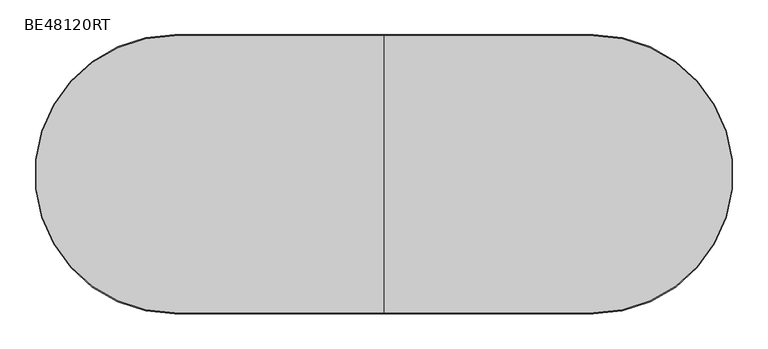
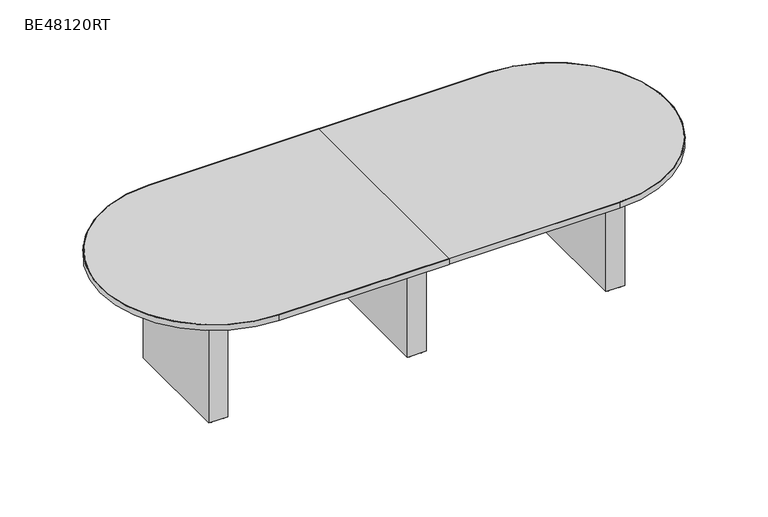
"""IFC4 building model written with IfcOpenShell, lengths in millimetres: furniture geometry, ERG-Beta-Conference_Table-Racetrack : BE48120RT."""

from ifc_helpers import new_model, si_unit, point, frame, frame_2d, origin, origin_with_axes, place, context, project, spatial, polyline, circle_curve, trimmed, segment, composite_curve, outline, extrude, source, transform, mapped, element, save


def be48120rt_d17ae28c(model_context):
    return source(origin(), model_context, "Body", "SweptSolid", [
        extrude(outline(composite_curve([segment(trimmed(circle_curve(frame_2d((511.175, 339.476527)), 9.525), [point((501.65, 339.476527))], [point((520.7, 339.476527))], False, "CARTESIAN"), True, "CONTINUOUS"), segment(trimmed(circle_curve(frame_2d((511.175, 339.476527)), 9.525), [point((520.7, 339.476527))], [point((501.65, 339.476527))], False, "CARTESIAN"), True, "CONTINUOUS")], self_intersect=False)), origin_with_axes(), (0.0, 0.0, 1.0), 9.525),
        extrude(outline(composite_curve([segment(trimmed(circle_curve(frame_2d((574.675, 339.476527)), 9.525), [point((565.15, 339.476527))], [point((584.2, 339.476527))], False, "CARTESIAN"), True, "CONTINUOUS"), segment(trimmed(circle_curve(frame_2d((574.675, 339.476527)), 9.525), [point((584.2, 339.476527))], [point((565.15, 339.476527))], False, "CARTESIAN"), True, "CONTINUOUS")], self_intersect=False)), origin_with_axes(), (0.0, 0.0, 1.0), 9.525),
        extrude(outline(composite_curve([segment(trimmed(circle_curve(frame_2d((511.175, -232.023473)), 9.525), [point((501.65, -232.023473))], [point((520.7, -232.023473))], False, "CARTESIAN"), True, "CONTINUOUS"), segment(trimmed(circle_curve(frame_2d((511.175, -232.023473)), 9.525), [point((520.7, -232.023473))], [point((501.65, -232.023473))], False, "CARTESIAN"), True, "CONTINUOUS")], self_intersect=False)), origin_with_axes(), (0.0, 0.0, 1.0), 9.525),
        extrude(outline(composite_curve([segment(trimmed(circle_curve(frame_2d((574.675, -232.023473)), 9.525), [point((565.15, -232.023473))], [point((584.2, -232.023473))], False, "CARTESIAN"), True, "CONTINUOUS"), segment(trimmed(circle_curve(frame_2d((574.675, -232.023473)), 9.525), [point((584.2, -232.023473))], [point((565.15, -232.023473))], False, "CARTESIAN"), True, "CONTINUOUS")], self_intersect=False)), origin_with_axes(), (0.0, 0.0, 1.0), 9.525),
        extrude(outline(polyline([(593.725, 358.526527), (593.725, -251.073473), (492.125, -251.073473), (492.125, 358.526527), (593.725, 358.526527)])), frame((0.0, 0.0, 9.525), z_axis=(0.0, 0.0, 1.0), x_axis=(1.0, 0.0, 0.0)), (0.0, 0.0, 1.0), 695.3249758),
        extrude(outline(composite_curve([segment(trimmed(circle_curve(frame_2d((1577.975, 339.476527)), 9.525), [point((1568.45, 339.476527))], [point((1587.5, 339.476527))], False, "CARTESIAN"), True, "CONTINUOUS"), segment(trimmed(circle_curve(frame_2d((1577.975, 339.476527)), 9.525), [point((1587.5, 339.476527))], [point((1568.45, 339.476527))], False, "CARTESIAN"), True, "CONTINUOUS")], self_intersect=False)), origin_with_axes(), (0.0, 0.0, 1.0), 9.525),
        extrude(outline(composite_curve([segment(trimmed(circle_curve(frame_2d((1641.475, 339.476527)), 9.525), [point((1631.95, 339.476527))], [point((1651.0, 339.476527))], False, "CARTESIAN"), True, "CONTINUOUS"), segment(trimmed(circle_curve(frame_2d((1641.475, 339.476527)), 9.525), [point((1651.0, 339.476527))], [point((1631.95, 339.476527))], False, "CARTESIAN"), True, "CONTINUOUS")], self_intersect=False)), origin_with_axes(), (0.0, 0.0, 1.0), 9.525),
        extrude(outline(composite_curve([segment(trimmed(circle_curve(frame_2d((1577.975, -232.023473)), 9.525), [point((1568.45, -232.023473))], [point((1587.5, -232.023473))], False, "CARTESIAN"), True, "CONTINUOUS"), segment(trimmed(circle_curve(frame_2d((1577.975, -232.023473)), 9.525), [point((1587.5, -232.023473))], [point((1568.45, -232.023473))], False, "CARTESIAN"), True, "CONTINUOUS")], self_intersect=False)), origin_with_axes(), (0.0, 0.0, 1.0), 9.525),
        extrude(outline(composite_curve([segment(trimmed(circle_curve(frame_2d((1641.475, -232.023473)), 9.525), [point((1631.95, -232.023473))], [point((1651.0, -232.023473))], False, "CARTESIAN"), True, "CONTINUOUS"), segment(trimmed(circle_curve(frame_2d((1641.475, -232.023473)), 9.525), [point((1651.0, -232.023473))], [point((1631.95, -232.023473))], False, "CARTESIAN"), True, "CONTINUOUS")], self_intersect=False)), origin_with_axes(), (0.0, 0.0, 1.0), 9.525),
        extrude(outline(polyline([(1660.525, 358.526527), (1660.525, -251.073473), (1558.925, -251.073473), (1558.925, 358.526527), (1660.525, 358.526527)])), frame((0.0, 0.0, 9.525), z_axis=(0.0, 0.0, 1.0), x_axis=(1.0, 0.0, 0.0)), (0.0, 0.0, 1.0), 695.3249758),
        extrude(outline(composite_curve([segment(trimmed(circle_curve(frame_2d((-555.625, 339.476527)), 9.525), [point((-565.15, 339.476527))], [point((-546.1, 339.476527))], False, "CARTESIAN"), True, "CONTINUOUS"), segment(trimmed(circle_curve(frame_2d((-555.625, 339.476527)), 9.525), [point((-546.1, 339.476527))], [point((-565.15, 339.476527))], False, "CARTESIAN"), True, "CONTINUOUS")], self_intersect=False)), origin_with_axes(), (0.0, 0.0, 1.0), 9.525),
        extrude(outline(composite_curve([segment(trimmed(circle_curve(frame_2d((-492.125, 339.476527)), 9.525), [point((-501.65, 339.476527))], [point((-482.6, 339.476527))], False, "CARTESIAN"), True, "CONTINUOUS"), segment(trimmed(circle_curve(frame_2d((-492.125, 339.476527)), 9.525), [point((-482.6, 339.476527))], [point((-501.65, 339.476527))], False, "CARTESIAN"), True, "CONTINUOUS")], self_intersect=False)), origin_with_axes(), (0.0, 0.0, 1.0), 9.525),
        extrude(outline(composite_curve([segment(trimmed(circle_curve(frame_2d((-555.625, -232.023473)), 9.525), [point((-565.15, -232.023473))], [point((-546.1, -232.023473))], False, "CARTESIAN"), True, "CONTINUOUS"), segment(trimmed(circle_curve(frame_2d((-555.625, -232.023473)), 9.525), [point((-546.1, -232.023473))], [point((-565.15, -232.023473))], False, "CARTESIAN"), True, "CONTINUOUS")], self_intersect=False)), origin_with_axes(), (0.0, 0.0, 1.0), 9.525),
        extrude(outline(composite_curve([segment(trimmed(circle_curve(frame_2d((-492.125, -232.023473)), 9.525), [point((-501.65, -232.023473))], [point((-482.6, -232.023473))], False, "CARTESIAN"), True, "CONTINUOUS"), segment(trimmed(circle_curve(frame_2d((-492.125, -232.023473)), 9.525), [point((-482.6, -232.023473))], [point((-501.65, -232.023473))], False, "CARTESIAN"), True, "CONTINUOUS")], self_intersect=False)), origin_with_axes(), (0.0, 0.0, 1.0), 9.525),
        extrude(outline(polyline([(-473.075, 358.526527), (-473.075, -251.073473), (-574.675, -251.073473), (-574.675, 358.526527), (-473.075, 358.526527)])), frame((0.0, 0.0, 9.525), z_axis=(0.0, 0.0, 1.0), x_axis=(1.0, 0.0, 0.0)), (0.0, 0.0, 1.0), 695.3249758),
        extrude(outline(composite_curve([segment(trimmed(circle_curve(frame_2d((1457.325, 53.726527)), 606.425), [point((1457.325, 660.151527))], [point((1457.325, -552.698473))], False, "CARTESIAN"), True, "CONTINUOUS"), segment(polyline([(1457.325, -552.698473), (544.5125, -552.698473), (544.5125, 660.151527), (1457.325, 660.151527)]), True, "CONTINUOUS")], self_intersect=False)), frame((0.0, 0.0, 704.85), z_axis=(0.0, 0.0, 1.0), x_axis=(1.0, 0.0, 0.0)), (0.0, 0.0, 1.0), 31.75),
        extrude(outline(composite_curve([segment(trimmed(circle_curve(frame_2d((-371.475, 53.726527)), 606.425), [point((-371.475, -552.698473))], [point((-371.475, 660.151527))], False, "CARTESIAN"), True, "CONTINUOUS"), segment(polyline([(-371.475, 660.151527), (541.3375, 660.151527), (541.3375, -552.698473), (-371.475, -552.698473)]), True, "CONTINUOUS")], self_intersect=False)), frame((0.0, 0.0, 704.85), z_axis=(0.0, 0.0, 1.0), x_axis=(1.0, 0.0, 0.0)), (0.0, 0.0, 1.0), 31.75),
        extrude(outline(composite_curve([segment(trimmed(circle_curve(frame_2d((1457.325, 53.726527)), 606.425), [point((1457.325, -552.698473))], [point((1457.325, 660.151527))], True, "CARTESIAN"), True, "CONTINUOUS"), segment(polyline([(1457.325, 660.151527), (544.5125, 660.151527), (544.5125, 663.326527), (1457.325, 663.326527)]), True, "CONTINUOUS"), segment(trimmed(circle_curve(frame_2d((1457.325, 53.726527)), 609.6), [point((1457.325, 663.326527))], [point((1457.325, -555.873473))], False, "CARTESIAN"), True, "CONTINUOUS"), segment(polyline([(1457.325, -555.873473), (544.5125, -555.873473), (544.5125, -552.698473), (1457.325, -552.698473)]), True, "CONTINUOUS")], self_intersect=False)), frame((0.0, 0.0, 704.85), z_axis=(0.0, 0.0, 1.0), x_axis=(1.0, 0.0, 0.0)), (0.0, 0.0, 1.0), 31.75),
        extrude(outline(composite_curve([segment(trimmed(circle_curve(frame_2d((-371.475, 53.726527)), 609.6), [point((-371.475, -555.873473))], [point((-371.475, 663.326527))], False, "CARTESIAN"), True, "CONTINUOUS"), segment(polyline([(-371.475, 663.326527), (541.3375, 663.326527), (541.3375, 660.151527), (-371.475, 660.151527)]), True, "CONTINUOUS"), segment(trimmed(circle_curve(frame_2d((-371.475, 53.726527)), 606.425), [point((-371.475, 660.151527))], [point((-371.475, -552.698473))], True, "CARTESIAN"), True, "CONTINUOUS"), segment(polyline([(-371.475, -552.698473), (541.3375, -552.698473), (541.3375, -555.873473), (-371.475, -555.873473)]), True, "CONTINUOUS")], self_intersect=False)), frame((0.0, 0.0, 704.85), z_axis=(0.0, 0.0, 1.0), x_axis=(1.0, 0.0, 0.0)), (0.0, 0.0, 1.0), 31.75),
    ])


if __name__ == "__main__":
    model = new_model("IFC4")
    model_context = context("Model", 3, world=origin())
    ifc_project = project(units=[si_unit("LENGTHUNIT", "METRE", prefix="MILLI")], contexts=[model_context])
    site = spatial("IfcSite", under=ifc_project)
    building = spatial("IfcBuilding", under=site)
    placement = place(None, origin())
    be48120rt_shape = be48120rt_d17ae28c(model_context)
    element("IfcFurniture", 1, ObjectType="ERG-Beta-Conference_Table-Racetrack : BE48120RT", at=placement, inside=building, context=model_context, shape_type="MappedRepresentation", body=[
        mapped(be48120rt_shape, transform((0.0, 0.0, 0.0), x_axis=(1.0, 0.0, 0.0), y_axis=(0.0, 1.0, 0.0), z_axis=(0.0, 0.0, 1.0))),
    ])
    save(model, "model.ifc")
